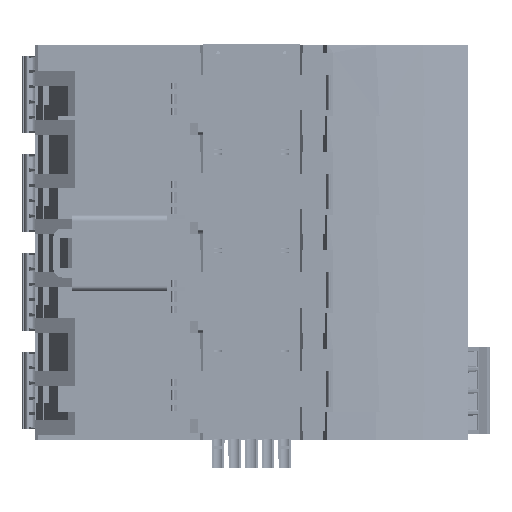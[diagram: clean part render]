
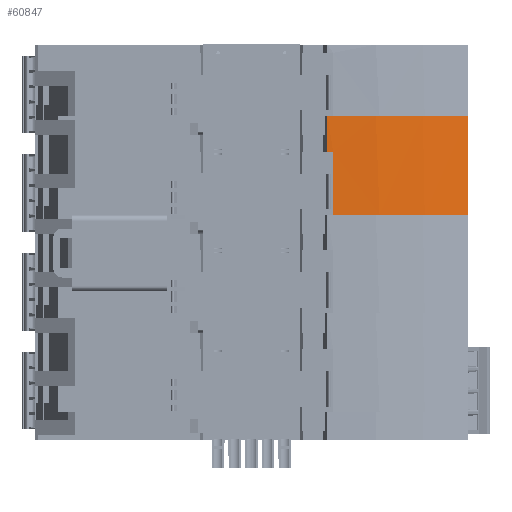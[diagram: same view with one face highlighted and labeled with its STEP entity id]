
A CAD part, front view. The second image highlights one B-rep face of the part: STEP entity #60847.
In plain terms, the highlighted cylindrical face has radius 80 mm (diameter 160 mm), a partial arc.
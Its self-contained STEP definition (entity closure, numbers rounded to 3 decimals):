
#97 = CARTESIAN_POINT ( 'NONE',  ( 7.143, -14.031, -19.785 ) ) ;
#2397 = EDGE_CURVE ( 'NONE', #147779, #182639, #147657, .T. ) ;
#8883 = DIRECTION ( 'NONE',  ( 1., 0., 0. ) ) ;
#10549 = VECTOR ( 'NONE', #146130, 1000. ) ;
#18267 = CARTESIAN_POINT ( 'NONE',  ( 10.293, 65.8, -14.585 ) ) ;
#20229 = DIRECTION ( 'NONE',  ( 0., 0., -1. ) ) ;
#21497 = VECTOR ( 'NONE', #167105, 1000. ) ;
#22556 = AXIS2_PLACEMENT_3D ( 'NONE', #79094, #8883, #123870 ) ;
#35166 = EDGE_CURVE ( 'NONE', #147779, #69754, #94135, .T. ) ;
#39542 = ORIENTED_EDGE ( 'NONE', *, *, #173387, .F. ) ;
#42844 = CARTESIAN_POINT ( 'NONE',  ( 15.343, -14.105, -18.49 ) ) ;
#42945 = LINE ( 'NONE', #175321, #10549 ) ;
#48395 = CARTESIAN_POINT ( 'NONE',  ( -7.257, 65.8, -14.585 ) ) ;
#49578 = VERTEX_POINT ( 'NONE', #42844 ) ;
#51302 = LINE ( 'NONE', #113621, #164221 ) ;
#60847 = ADVANCED_FACE ( 'NONE', ( #77684 ), #78658, .T. ) ;
#62239 = CARTESIAN_POINT ( 'NONE',  ( -7.257, -14.031, -19.785 ) ) ;
#62992 = CARTESIAN_POINT ( 'NONE',  ( 10.293, -14.031, -19.785 ) ) ;
#69754 = VERTEX_POINT ( 'NONE', #62239 ) ;
#71145 = EDGE_CURVE ( 'NONE', #119522, #97691, #42945, .T. ) ;
#76789 = DIRECTION ( 'NONE',  ( -1., 0., 0. ) ) ;
#77359 = EDGE_CURVE ( 'NONE', #49578, #182639, #51302, .T. ) ;
#77684 = FACE_OUTER_BOUND ( 'NONE', #112464, .T. ) ;
#78658 = CYLINDRICAL_SURFACE ( 'NONE', #121854, 80. ) ;
#79094 = CARTESIAN_POINT ( 'NONE',  ( 15.343, 65.8, -14.585 ) ) ;
#82521 = ORIENTED_EDGE ( 'NONE', *, *, #77359, .T. ) ;
#94135 = LINE ( 'NONE', #62992, #21497 ) ;
#97691 = VERTEX_POINT ( 'NONE', #124904 ) ;
#102798 = AXIS2_PLACEMENT_3D ( 'NONE', #48395, #122407, #107816 ) ;
#106351 = ORIENTED_EDGE ( 'NONE', *, *, #151353, .F. ) ;
#107816 = DIRECTION ( 'NONE',  ( 0., 0., -1. ) ) ;
#112464 = EDGE_LOOP ( 'NONE', ( #39542, #178398, #106351, #82521, #151405, #112708 ) ) ;
#112708 = ORIENTED_EDGE ( 'NONE', *, *, #35166, .T. ) ;
#113621 = CARTESIAN_POINT ( 'NONE',  ( 10.293, -14.105, -18.49 ) ) ;
#119522 = VERTEX_POINT ( 'NONE', #168179 ) ;
#120591 = DIRECTION ( 'NONE',  ( 1., 0., 0. ) ) ;
#121854 = AXIS2_PLACEMENT_3D ( 'NONE', #18267, #120591, #179891 ) ;
#121867 = CARTESIAN_POINT ( 'NONE',  ( 7.143, -14.105, -18.49 ) ) ;
#122407 = DIRECTION ( 'NONE',  ( -1., 0., 0. ) ) ;
#123870 = DIRECTION ( 'NONE',  ( 0., 0., -1. ) ) ;
#124904 = CARTESIAN_POINT ( 'NONE',  ( -7.257, -5.642, -50.585 ) ) ;
#137117 = CARTESIAN_POINT ( 'NONE',  ( 7.143, 65.8, -14.585 ) ) ;
#146130 = DIRECTION ( 'NONE',  ( -1., 0., 0. ) ) ;
#147657 = CIRCLE ( 'NONE', #156952, 80. ) ;
#147779 = VERTEX_POINT ( 'NONE', #97 ) ;
#151353 = EDGE_CURVE ( 'NONE', #49578, #119522, #184144, .T. ) ;
#151405 = ORIENTED_EDGE ( 'NONE', *, *, #2397, .F. ) ;
#156952 = AXIS2_PLACEMENT_3D ( 'NONE', #137117, #76789, #20229 ) ;
#158331 = DIRECTION ( 'NONE',  ( -1., 0., 0. ) ) ;
#164221 = VECTOR ( 'NONE', #158331, 1000. ) ;
#167105 = DIRECTION ( 'NONE',  ( -1., 0., 0. ) ) ;
#168028 = CIRCLE ( 'NONE', #102798, 80. ) ;
#168179 = CARTESIAN_POINT ( 'NONE',  ( 15.343, -5.642, -50.585 ) ) ;
#173387 = EDGE_CURVE ( 'NONE', #97691, #69754, #168028, .T. ) ;
#175321 = CARTESIAN_POINT ( 'NONE',  ( 2.143, -5.642, -50.585 ) ) ;
#178398 = ORIENTED_EDGE ( 'NONE', *, *, #71145, .F. ) ;
#179891 = DIRECTION ( 'NONE',  ( 0., 0., -1. ) ) ;
#182639 = VERTEX_POINT ( 'NONE', #121867 ) ;
#184144 = CIRCLE ( 'NONE', #22556, 80. ) ;
